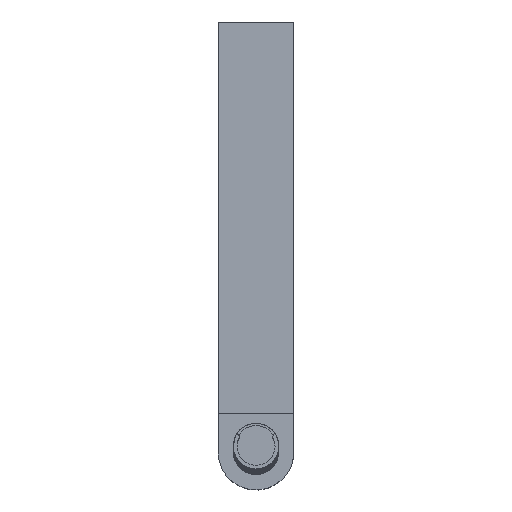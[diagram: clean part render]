
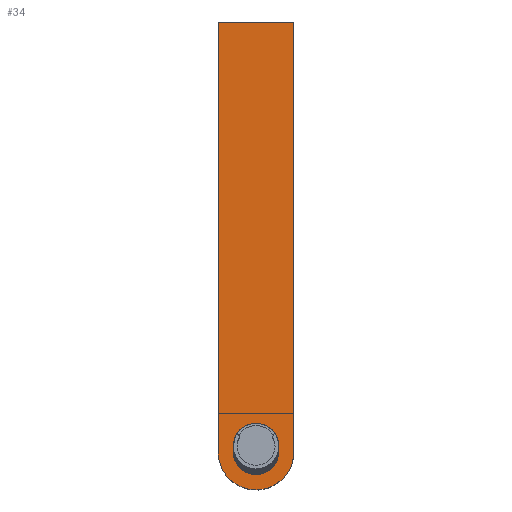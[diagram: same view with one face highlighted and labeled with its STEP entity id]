
A CAD part, top view. The second image highlights one B-rep face of the part: STEP entity #34.
In plain terms, the highlighted planar face has unit normal (0, 0, 1).
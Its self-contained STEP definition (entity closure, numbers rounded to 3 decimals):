
#34=ADVANCED_FACE('',(#57),#310,.T.);
#57=FACE_OUTER_BOUND('',#80,.T.);
#80=EDGE_LOOP('',(#115,#116,#117,#118));
#115=ORIENTED_EDGE('',*,*,#197,.F.);
#116=ORIENTED_EDGE('',*,*,#194,.F.);
#117=ORIENTED_EDGE('',*,*,#191,.F.);
#118=ORIENTED_EDGE('',*,*,#187,.F.);
#187=EDGE_CURVE('',#275,#276,#233,.T.);
#191=EDGE_CURVE('',#276,#279,#237,.T.);
#194=EDGE_CURVE('',#279,#281,#240,.T.);
#197=EDGE_CURVE('',#281,#275,#243,.T.);
#233=(
BOUNDED_CURVE()
B_SPLINE_CURVE(2,(#481,#482,#483,#484,#485),.UNSPECIFIED.,.F.,.F.)
B_SPLINE_CURVE_WITH_KNOTS((3,2,3),(-300.071,-276.509,
-252.947),.UNSPECIFIED.)
CURVE()
GEOMETRIC_REPRESENTATION_ITEM()
RATIONAL_B_SPLINE_CURVE((1.,0.707,1.,0.707,1.))
REPRESENTATION_ITEM('')
);
#237=(
BOUNDED_CURVE()
B_SPLINE_CURVE(2,(#495,#496,#497,#498,#499),.UNSPECIFIED.,.F.,.F.)
B_SPLINE_CURVE_WITH_KNOTS((3,2,3),(-252.947,-241.965,
-146.965),.UNSPECIFIED.)
CURVE()
GEOMETRIC_REPRESENTATION_ITEM()
RATIONAL_B_SPLINE_CURVE((1.,1.,1.,1.,1.))
REPRESENTATION_ITEM('')
);
#240=(
BOUNDED_CURVE()
B_SPLINE_CURVE(2,(#507,#508,#509),.UNSPECIFIED.,.F.,.F.)
B_SPLINE_CURVE_WITH_KNOTS((3,3),(-146.965,-116.965),
 .UNSPECIFIED.)
CURVE()
GEOMETRIC_REPRESENTATION_ITEM()
RATIONAL_B_SPLINE_CURVE((1.,1.,1.))
REPRESENTATION_ITEM('')
);
#243=(
BOUNDED_CURVE()
B_SPLINE_CURVE(2,(#515,#516,#517,#518,#519),.UNSPECIFIED.,.F.,.F.)
B_SPLINE_CURVE_WITH_KNOTS((3,2,3),(-116.965,-21.965,
-10.982),.UNSPECIFIED.)
CURVE()
GEOMETRIC_REPRESENTATION_ITEM()
RATIONAL_B_SPLINE_CURVE((1.,1.,1.,1.,1.))
REPRESENTATION_ITEM('')
);
#275=VERTEX_POINT('',#473);
#276=VERTEX_POINT('',#474);
#279=VERTEX_POINT('',#477);
#281=VERTEX_POINT('',#479);
#310=PLANE('',#420);
#420=AXIS2_PLACEMENT_3D('',#471,#445,$);
#445=DIRECTION('',(0.,0.,1.));
#471=CARTESIAN_POINT('',(6059.134,403.733,367.143));
#473=CARTESIAN_POINT('',(6055.384,441.857,367.143));
#474=CARTESIAN_POINT('',(6025.384,441.857,367.143));
#477=CARTESIAN_POINT('',(6025.384,611.848,367.143));
#479=CARTESIAN_POINT('',(6055.384,611.848,367.143));
#481=CARTESIAN_POINT('',(6055.384,441.857,367.143));
#482=CARTESIAN_POINT('',(6055.384,426.857,367.143));
#483=CARTESIAN_POINT('',(6040.384,426.857,367.143));
#484=CARTESIAN_POINT('',(6025.384,426.857,367.143));
#485=CARTESIAN_POINT('',(6025.384,441.857,367.143));
#495=CARTESIAN_POINT('',(6025.384,441.857,367.143));
#496=CARTESIAN_POINT('',(6025.384,447.348,367.143));
#497=CARTESIAN_POINT('',(6025.384,452.84,367.143));
#498=CARTESIAN_POINT('',(6025.384,532.344,367.143));
#499=CARTESIAN_POINT('',(6025.384,611.848,367.143));
#507=CARTESIAN_POINT('',(6025.384,611.848,367.143));
#508=CARTESIAN_POINT('',(6040.384,611.848,367.143));
#509=CARTESIAN_POINT('',(6055.384,611.848,367.143));
#515=CARTESIAN_POINT('',(6055.384,611.848,367.143));
#516=CARTESIAN_POINT('',(6055.384,532.344,367.143));
#517=CARTESIAN_POINT('',(6055.384,452.84,367.143));
#518=CARTESIAN_POINT('',(6055.384,447.348,367.143));
#519=CARTESIAN_POINT('',(6055.384,441.857,367.143));
